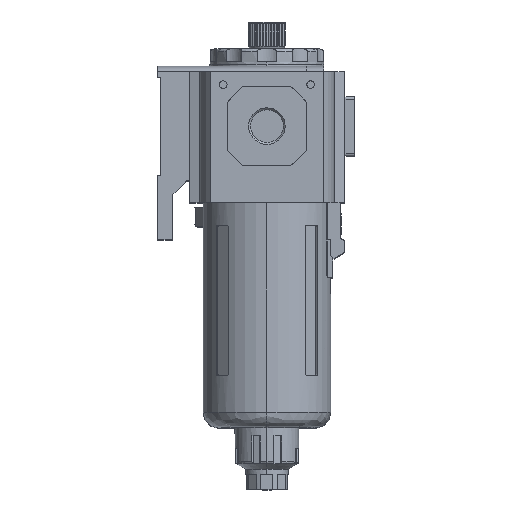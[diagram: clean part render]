
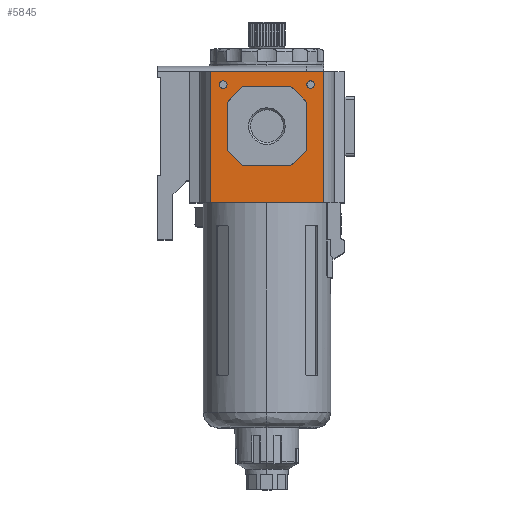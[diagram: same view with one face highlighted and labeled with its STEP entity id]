
A CAD part, top view. The second image highlights one B-rep face of the part: STEP entity #5845.
In plain terms, the highlighted planar face has unit normal (0, 0, 1).
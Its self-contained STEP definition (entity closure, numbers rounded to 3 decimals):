
#90 = DIRECTION ( 'NONE',  ( 0., -1., 0. ) ) ;
#325 = CARTESIAN_POINT ( 'NONE',  ( 20., 19., 118. ) ) ;
#751 = ORIENTED_EDGE ( 'NONE', *, *, #53951, .F. ) ;
#1235 = VERTEX_POINT ( 'NONE', #33285 ) ;
#1770 = ORIENTED_EDGE ( 'NONE', *, *, #63711, .T. ) ;
#1896 = EDGE_CURVE ( 'NONE', #20384, #81641, #72064, .T. ) ;
#1998 = DIRECTION ( 'NONE',  ( 0.707, -0.707, 0. ) ) ;
#3237 = VERTEX_POINT ( 'NONE', #44476 ) ;
#3269 = DIRECTION ( 'NONE',  ( -0.707, 0.707, 0. ) ) ;
#4355 = LINE ( 'NONE', #26844, #47713 ) ;
#4380 = CARTESIAN_POINT ( 'NONE',  ( 14., 15., 118. ) ) ;
#5273 = VECTOR ( 'NONE', #38253, 1000. ) ;
#5845 = ADVANCED_FACE ( 'NONE', ( #59907, #66632, #72137, #9877 ), #92091, .T. ) ;
#5891 = DIRECTION ( 'NONE',  ( 0.707, 0.707, 0. ) ) ;
#6540 = LINE ( 'NONE', #36130, #42066 ) ;
#7038 = AXIS2_PLACEMENT_3D ( 'NONE', #7102, #23408, #37984 ) ;
#7102 = CARTESIAN_POINT ( 'NONE',  ( 26., -35., 118. ) ) ;
#7176 = CARTESIAN_POINT ( 'NONE',  ( 26., -15., 118. ) ) ;
#9877 = FACE_BOUND ( 'NONE', #76903, .T. ) ;
#11563 = ORIENTED_EDGE ( 'NONE', *, *, #59777, .F. ) ;
#11700 = EDGE_CURVE ( 'NONE', #34959, #14433, #68871, .T. ) ;
#12373 = VECTOR ( 'NONE', #5891, 1000. ) ;
#12611 = VECTOR ( 'NONE', #50327, 1000. ) ;
#12968 = EDGE_CURVE ( 'NONE', #15029, #3237, #19772, .T. ) ;
#13137 = EDGE_CURVE ( 'NONE', #83164, #61442, #66560, .T. ) ;
#13801 = CARTESIAN_POINT ( 'NONE',  ( -15., -35., 118. ) ) ;
#13929 = CARTESIAN_POINT ( 'NONE',  ( -26., -35., 118. ) ) ;
#14433 = VERTEX_POINT ( 'NONE', #69984 ) ;
#15029 = VERTEX_POINT ( 'NONE', #75940 ) ;
#16371 = VERTEX_POINT ( 'NONE', #55312 ) ;
#17140 = DIRECTION ( 'NONE',  ( 0., 0., -1. ) ) ;
#17410 = CARTESIAN_POINT ( 'NONE',  ( -14., 15., 118. ) ) ;
#17449 = DIRECTION ( 'NONE',  ( 0., -1., 0. ) ) ;
#17997 = DIRECTION ( 'NONE',  ( 1., 0., 0. ) ) ;
#19660 = DIRECTION ( 'NONE',  ( 0., 1., 0. ) ) ;
#19662 = DIRECTION ( 'NONE',  ( 1., 0., 0. ) ) ;
#19772 = LINE ( 'NONE', #31590, #40915 ) ;
#20058 = LINE ( 'NONE', #78080, #26767 ) ;
#20282 = CARTESIAN_POINT ( 'NONE',  ( 26., -35., 118. ) ) ;
#20384 = VERTEX_POINT ( 'NONE', #35236 ) ;
#21606 = CARTESIAN_POINT ( 'NONE',  ( 15., 14., 118. ) ) ;
#21936 = EDGE_CURVE ( 'NONE', #49212, #69634, #81439, .T. ) ;
#22530 = CARTESIAN_POINT ( 'NONE',  ( -20., 19., 118. ) ) ;
#22588 = EDGE_CURVE ( 'NONE', #64788, #81641, #20058, .T. ) ;
#22591 = AXIS2_PLACEMENT_3D ( 'NONE', #22530, #85832, #86420 ) ;
#23216 = CIRCLE ( 'NONE', #31502, 1.75 ) ;
#23408 = DIRECTION ( 'NONE',  ( 0., 0., 1. ) ) ;
#23511 = ORIENTED_EDGE ( 'NONE', *, *, #26019, .T. ) ;
#25355 = ORIENTED_EDGE ( 'NONE', *, *, #1896, .T. ) ;
#25685 = AXIS2_PLACEMENT_3D ( 'NONE', #325, #28883, #43507 ) ;
#26019 = EDGE_CURVE ( 'NONE', #61442, #83164, #23216, .T. ) ;
#26767 = VECTOR ( 'NONE', #1998, 1000. ) ;
#26844 = CARTESIAN_POINT ( 'NONE',  ( 0., 25., 118. ) ) ;
#28626 = ORIENTED_EDGE ( 'NONE', *, *, #11700, .T. ) ;
#28883 = DIRECTION ( 'NONE',  ( 0., 0., -1. ) ) ;
#29317 = CARTESIAN_POINT ( 'NONE',  ( -21.75, 19., 118. ) ) ;
#31254 = LINE ( 'NONE', #90858, #12373 ) ;
#31502 = AXIS2_PLACEMENT_3D ( 'NONE', #80418, #60260, #17997 ) ;
#31565 = EDGE_CURVE ( 'NONE', #92040, #3237, #84103, .T. ) ;
#31590 = CARTESIAN_POINT ( 'NONE',  ( 26., -35., 118. ) ) ;
#32023 = CARTESIAN_POINT ( 'NONE',  ( 26., 15., 118. ) ) ;
#32193 = ORIENTED_EDGE ( 'NONE', *, *, #78382, .F. ) ;
#32685 = VECTOR ( 'NONE', #17449, 1000. ) ;
#33285 = CARTESIAN_POINT ( 'NONE',  ( -26., 25., 118. ) ) ;
#34959 = VERTEX_POINT ( 'NONE', #29317 ) ;
#35236 = CARTESIAN_POINT ( 'NONE',  ( 14., -15., 118. ) ) ;
#35982 = CARTESIAN_POINT ( 'NONE',  ( -15., 14., 118. ) ) ;
#36130 = CARTESIAN_POINT ( 'NONE',  ( -26., -35., 118. ) ) ;
#37708 = VECTOR ( 'NONE', #19660, 1000. ) ;
#37984 = DIRECTION ( 'NONE',  ( 1., 0., 0. ) ) ;
#38044 = CARTESIAN_POINT ( 'NONE',  ( 14., 15., 118. ) ) ;
#38253 = DIRECTION ( 'NONE',  ( 1., 0., 0. ) ) ;
#38588 = VECTOR ( 'NONE', #41118, 1000. ) ;
#40915 = VECTOR ( 'NONE', #80923, 1000. ) ;
#41118 = DIRECTION ( 'NONE',  ( 1., 0., 0. ) ) ;
#42066 = VECTOR ( 'NONE', #90, 1000. ) ;
#42127 = ORIENTED_EDGE ( 'NONE', *, *, #12968, .F. ) ;
#42259 = DIRECTION ( 'NONE',  ( -1., 0., 0. ) ) ;
#43098 = CIRCLE ( 'NONE', #82171, 1.75 ) ;
#43507 = DIRECTION ( 'NONE',  ( 1., 0., 0. ) ) ;
#44476 = CARTESIAN_POINT ( 'NONE',  ( 26., -35., 118. ) ) ;
#46008 = ORIENTED_EDGE ( 'NONE', *, *, #63892, .T. ) ;
#46442 = ORIENTED_EDGE ( 'NONE', *, *, #13137, .T. ) ;
#47713 = VECTOR ( 'NONE', #19662, 1000. ) ;
#49212 = VERTEX_POINT ( 'NONE', #17410 ) ;
#50265 = CARTESIAN_POINT ( 'NONE',  ( 21.75, 19., 118. ) ) ;
#50327 = DIRECTION ( 'NONE',  ( -0.707, -0.707, 0. ) ) ;
#51956 = DIRECTION ( 'NONE',  ( 1., 0., 0. ) ) ;
#52078 = ORIENTED_EDGE ( 'NONE', *, *, #80155, .T. ) ;
#53541 = ORIENTED_EDGE ( 'NONE', *, *, #22588, .F. ) ;
#53951 = EDGE_CURVE ( 'NONE', #72013, #60221, #68773, .T. ) ;
#55312 = CARTESIAN_POINT ( 'NONE',  ( 15., -14., 118. ) ) ;
#58668 = LINE ( 'NONE', #32023, #5273 ) ;
#59777 = EDGE_CURVE ( 'NONE', #1235, #15029, #4355, .T. ) ;
#59907 = FACE_OUTER_BOUND ( 'NONE', #79908, .T. ) ;
#60221 = VERTEX_POINT ( 'NONE', #4380 ) ;
#60260 = DIRECTION ( 'NONE',  ( 0., 0., -1. ) ) ;
#61274 = CARTESIAN_POINT ( 'NONE',  ( -20., 19., 118. ) ) ;
#61442 = VERTEX_POINT ( 'NONE', #64359 ) ;
#63482 = CARTESIAN_POINT ( 'NONE',  ( -14., -15., 118. ) ) ;
#63711 = EDGE_CURVE ( 'NONE', #64788, #69634, #77674, .T. ) ;
#63808 = LINE ( 'NONE', #79559, #32685 ) ;
#63892 = EDGE_CURVE ( 'NONE', #1235, #92040, #6540, .T. ) ;
#64359 = CARTESIAN_POINT ( 'NONE',  ( 18.25, 19., 118. ) ) ;
#64788 = VERTEX_POINT ( 'NONE', #86730 ) ;
#66560 = CIRCLE ( 'NONE', #25685, 1.75 ) ;
#66632 = FACE_BOUND ( 'NONE', #71317, .T. ) ;
#66973 = ORIENTED_EDGE ( 'NONE', *, *, #21936, .F. ) ;
#68773 = LINE ( 'NONE', #38044, #91994 ) ;
#68871 = CIRCLE ( 'NONE', #22591, 1.75 ) ;
#69634 = VERTEX_POINT ( 'NONE', #83019 ) ;
#69984 = CARTESIAN_POINT ( 'NONE',  ( -18.25, 19., 118. ) ) ;
#71317 = EDGE_LOOP ( 'NONE', ( #52078, #751, #77800, #32193, #25355, #53541, #1770, #66973 ) ) ;
#72013 = VERTEX_POINT ( 'NONE', #21606 ) ;
#72064 = LINE ( 'NONE', #7176, #86393 ) ;
#72137 = FACE_BOUND ( 'NONE', #85460, .T. ) ;
#75940 = CARTESIAN_POINT ( 'NONE',  ( 26., 25., 118. ) ) ;
#76903 = EDGE_LOOP ( 'NONE', ( #46442, #23511 ) ) ;
#77514 = EDGE_CURVE ( 'NONE', #72013, #16371, #63808, .T. ) ;
#77674 = LINE ( 'NONE', #13801, #37708 ) ;
#77800 = ORIENTED_EDGE ( 'NONE', *, *, #77514, .T. ) ;
#78080 = CARTESIAN_POINT ( 'NONE',  ( -14., -15., 118. ) ) ;
#78382 = EDGE_CURVE ( 'NONE', #20384, #16371, #31254, .T. ) ;
#79559 = CARTESIAN_POINT ( 'NONE',  ( 15., -35., 118. ) ) ;
#79908 = EDGE_LOOP ( 'NONE', ( #90363, #42127, #11563, #46008 ) ) ;
#80155 = EDGE_CURVE ( 'NONE', #49212, #60221, #58668, .T. ) ;
#80418 = CARTESIAN_POINT ( 'NONE',  ( 20., 19., 118. ) ) ;
#80923 = DIRECTION ( 'NONE',  ( 0., -1., 0. ) ) ;
#81439 = LINE ( 'NONE', #35982, #12611 ) ;
#81641 = VERTEX_POINT ( 'NONE', #63482 ) ;
#82171 = AXIS2_PLACEMENT_3D ( 'NONE', #61274, #17140, #51956 ) ;
#83019 = CARTESIAN_POINT ( 'NONE',  ( -15., 14., 118. ) ) ;
#83164 = VERTEX_POINT ( 'NONE', #50265 ) ;
#84103 = LINE ( 'NONE', #20282, #38588 ) ;
#84560 = EDGE_CURVE ( 'NONE', #14433, #34959, #43098, .T. ) ;
#85152 = ORIENTED_EDGE ( 'NONE', *, *, #84560, .T. ) ;
#85460 = EDGE_LOOP ( 'NONE', ( #85152, #28626 ) ) ;
#85832 = DIRECTION ( 'NONE',  ( 0., 0., -1. ) ) ;
#86393 = VECTOR ( 'NONE', #42259, 1000. ) ;
#86420 = DIRECTION ( 'NONE',  ( 1., 0., 0. ) ) ;
#86730 = CARTESIAN_POINT ( 'NONE',  ( -15., -14., 118. ) ) ;
#90363 = ORIENTED_EDGE ( 'NONE', *, *, #31565, .T. ) ;
#90858 = CARTESIAN_POINT ( 'NONE',  ( 15., -14., 118. ) ) ;
#91994 = VECTOR ( 'NONE', #3269, 1000. ) ;
#92040 = VERTEX_POINT ( 'NONE', #13929 ) ;
#92091 = PLANE ( 'NONE',  #7038 ) ;
